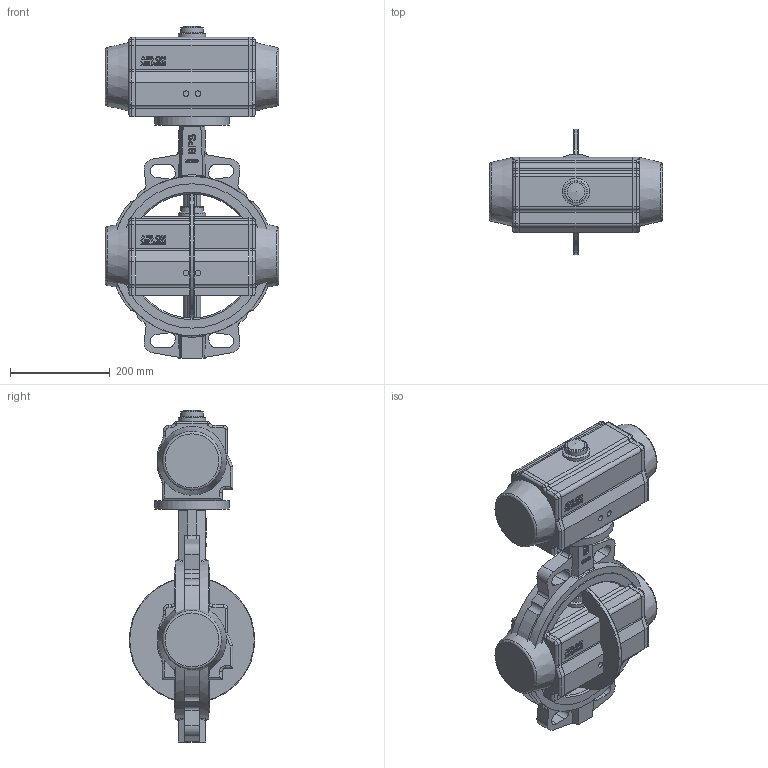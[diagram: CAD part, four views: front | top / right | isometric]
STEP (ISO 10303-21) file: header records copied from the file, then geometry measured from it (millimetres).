
FILE_DESCRIPTION( ( 'Unknown' ), '1' );
FILE_NAME( 'R:/ECCUA/ROOTSI BPS 3D vidinad/Poordklapid Wafer type/Butterfly valve(wafer) with pneumatic actuator BPS/STEP formaat/BPS 2303250P butterfly valve DN250.stp', 'Unknown', ( 'Unknown' ), ( 'Unknown' ), 'PSStep 10.1', 'Unknown', ' ' );
FILE_SCHEMA( ( 'AUTOMOTIVE_DESIGN { 1 0 10303 214 1 1 1 1 }' ) );
Length unit declared in the file: millimetre
Products named in the file (5): Assem1; Butterfly valve wafer type DN250 BPS; BPS 8300125DA-SR pneumatic actuator
Bounding box: 348 x 252 x 667 mm (x, y, z)
Volume: 20885189.8 mm3; surface area: 1440997.3 mm2
Topology: 8 solids, 8 shells, 1048 faces, 2734 edges, 1786 vertices
Faces by surface type: plane 322, cylinder 298, extrusion 298, torus 50, bspline 44, cone 34, sphere 2
Full cylindrical faces by diameter (mm): 6.647 x8, 8.376 x8, 10.106 x8, 11.445 x4, 13 x8, 36 x2, 45 x2, 55 x2, 150 x2, 250 x2, 290 x4, 320 x4
Entity records: 25006 total; most frequent: CARTESIAN_POINT 8533, ORIENTED_EDGE 2556, DIRECTION 2219, EDGE_CURVE 1278, VERTEX_POINT 871, VECTOR 805, AXIS2_PLACEMENT_3D 707, LINE 656
